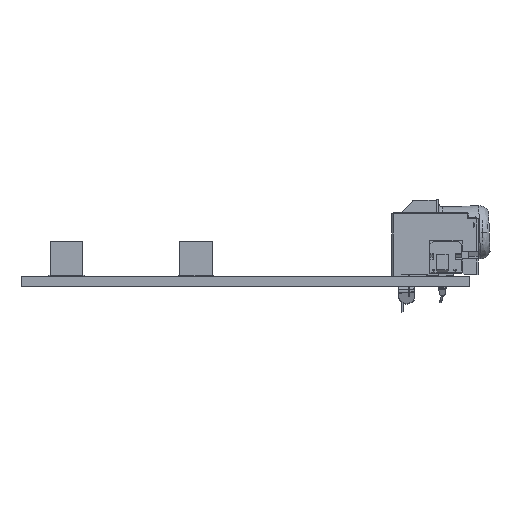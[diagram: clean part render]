
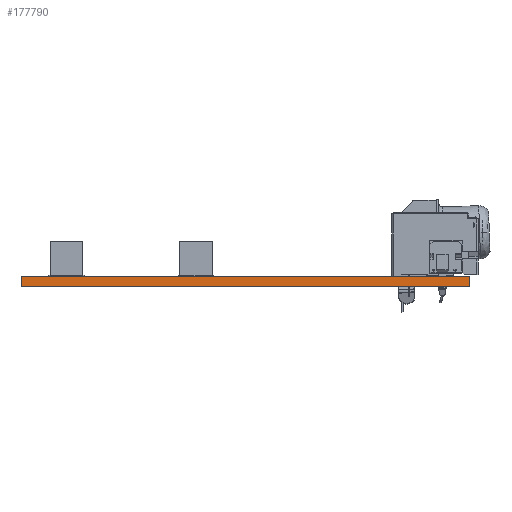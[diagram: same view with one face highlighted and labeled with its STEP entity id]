
A CAD part, left-side view. The second image highlights one B-rep face of the part: STEP entity #177790.
In plain terms, the highlighted planar face has unit normal (-1, 0, 0).
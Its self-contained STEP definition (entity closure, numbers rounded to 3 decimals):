
#170909 = PLANE('',#170910);
#170910 = AXIS2_PLACEMENT_3D('',#170911,#170912,#170913);
#170911 = CARTESIAN_POINT('',(21.051,33.135,1.64));
#170912 = DIRECTION('',(-0.,-0.,-1.));
#170913 = DIRECTION('',(-1.,0.,0.));
#170963 = PLANE('',#170964);
#170964 = AXIS2_PLACEMENT_3D('',#170965,#170966,#170967);
#170965 = CARTESIAN_POINT('',(21.051,33.135,0.));
#170966 = DIRECTION('',(-0.,-0.,-1.));
#170967 = DIRECTION('',(-1.,0.,0.));
#170996 = PLANE('',#170997);
#170997 = AXIS2_PLACEMENT_3D('',#170998,#170999,#171000);
#170998 = CARTESIAN_POINT('',(-30.,69.95,0.));
#170999 = DIRECTION('',(0.,1.,0.));
#171000 = DIRECTION('',(1.,0.,0.));
#172640 = VERTEX_POINT('',#172641);
#172641 = CARTESIAN_POINT('',(-30.,0.05,0.));
#172655 = PLANE('',#172656);
#172656 = AXIS2_PLACEMENT_3D('',#172657,#172658,#172659);
#172657 = CARTESIAN_POINT('',(-18.383,0.05,0.));
#172658 = DIRECTION('',(0.,-1.,0.));
#172659 = DIRECTION('',(-1.,0.,0.));
#172667 = EDGE_CURVE('',#172640,#172668,#172670,.T.);
#172668 = VERTEX_POINT('',#172669);
#172669 = CARTESIAN_POINT('',(-30.,69.95,0.));
#172670 = SURFACE_CURVE('',#172671,(#172675,#172682),.PCURVE_S1.);
#172671 = LINE('',#172672,#172673);
#172672 = CARTESIAN_POINT('',(-30.,0.05,0.));
#172673 = VECTOR('',#172674,1.);
#172674 = DIRECTION('',(0.,1.,0.));
#172675 = PCURVE('',#170963,#172676);
#172676 = DEFINITIONAL_REPRESENTATION('',(#172677),#172681);
#172677 = LINE('',#172678,#172679);
#172678 = CARTESIAN_POINT('',(51.051,-33.085));
#172679 = VECTOR('',#172680,1.);
#172680 = DIRECTION('',(0.,1.));
#172681 = ( GEOMETRIC_REPRESENTATION_CONTEXT(2) 
PARAMETRIC_REPRESENTATION_CONTEXT() REPRESENTATION_CONTEXT('2D SPACE',''
  ) );
#172682 = PCURVE('',#172683,#172688);
#172683 = PLANE('',#172684);
#172684 = AXIS2_PLACEMENT_3D('',#172685,#172686,#172687);
#172685 = CARTESIAN_POINT('',(-30.,0.05,0.));
#172686 = DIRECTION('',(-1.,0.,0.));
#172687 = DIRECTION('',(0.,1.,0.));
#172688 = DEFINITIONAL_REPRESENTATION('',(#172689),#172693);
#172689 = LINE('',#172690,#172691);
#172690 = CARTESIAN_POINT('',(0.,0.));
#172691 = VECTOR('',#172692,1.);
#172692 = DIRECTION('',(1.,0.));
#172693 = ( GEOMETRIC_REPRESENTATION_CONTEXT(2) 
PARAMETRIC_REPRESENTATION_CONTEXT() REPRESENTATION_CONTEXT('2D SPACE',''
  ) );
#175960 = VERTEX_POINT('',#175961);
#175961 = CARTESIAN_POINT('',(-30.,0.05,1.64));
#175982 = EDGE_CURVE('',#175960,#175983,#175985,.T.);
#175983 = VERTEX_POINT('',#175984);
#175984 = CARTESIAN_POINT('',(-30.,69.95,1.64));
#175985 = SURFACE_CURVE('',#175986,(#175990,#175997),.PCURVE_S1.);
#175986 = LINE('',#175987,#175988);
#175987 = CARTESIAN_POINT('',(-30.,0.05,1.64));
#175988 = VECTOR('',#175989,1.);
#175989 = DIRECTION('',(0.,1.,0.));
#175990 = PCURVE('',#170909,#175991);
#175991 = DEFINITIONAL_REPRESENTATION('',(#175992),#175996);
#175992 = LINE('',#175993,#175994);
#175993 = CARTESIAN_POINT('',(51.051,-33.085));
#175994 = VECTOR('',#175995,1.);
#175995 = DIRECTION('',(0.,1.));
#175996 = ( GEOMETRIC_REPRESENTATION_CONTEXT(2) 
PARAMETRIC_REPRESENTATION_CONTEXT() REPRESENTATION_CONTEXT('2D SPACE',''
  ) );
#175997 = PCURVE('',#172683,#175998);
#175998 = DEFINITIONAL_REPRESENTATION('',(#175999),#176003);
#175999 = LINE('',#176000,#176001);
#176000 = CARTESIAN_POINT('',(0.,-1.64));
#176001 = VECTOR('',#176002,1.);
#176002 = DIRECTION('',(1.,0.));
#176003 = ( GEOMETRIC_REPRESENTATION_CONTEXT(2) 
PARAMETRIC_REPRESENTATION_CONTEXT() REPRESENTATION_CONTEXT('2D SPACE',''
  ) );
#177740 = EDGE_CURVE('',#172668,#175983,#177741,.T.);
#177741 = SURFACE_CURVE('',#177742,(#177746,#177753),.PCURVE_S1.);
#177742 = LINE('',#177743,#177744);
#177743 = CARTESIAN_POINT('',(-30.,69.95,0.));
#177744 = VECTOR('',#177745,1.);
#177745 = DIRECTION('',(0.,0.,1.));
#177746 = PCURVE('',#170996,#177747);
#177747 = DEFINITIONAL_REPRESENTATION('',(#177748),#177752);
#177748 = LINE('',#177749,#177750);
#177749 = CARTESIAN_POINT('',(0.,0.));
#177750 = VECTOR('',#177751,1.);
#177751 = DIRECTION('',(0.,-1.));
#177752 = ( GEOMETRIC_REPRESENTATION_CONTEXT(2) 
PARAMETRIC_REPRESENTATION_CONTEXT() REPRESENTATION_CONTEXT('2D SPACE',''
  ) );
#177753 = PCURVE('',#172683,#177754);
#177754 = DEFINITIONAL_REPRESENTATION('',(#177755),#177759);
#177755 = LINE('',#177756,#177757);
#177756 = CARTESIAN_POINT('',(69.9,0.));
#177757 = VECTOR('',#177758,1.);
#177758 = DIRECTION('',(0.,-1.));
#177759 = ( GEOMETRIC_REPRESENTATION_CONTEXT(2) 
PARAMETRIC_REPRESENTATION_CONTEXT() REPRESENTATION_CONTEXT('2D SPACE',''
  ) );
#177790 = ADVANCED_FACE('',(#177791),#172683,.T.);
#177791 = FACE_BOUND('',#177792,.T.);
#177792 = EDGE_LOOP('',(#177793,#177814,#177815,#177816));
#177793 = ORIENTED_EDGE('',*,*,#177794,.T.);
#177794 = EDGE_CURVE('',#172640,#175960,#177795,.T.);
#177795 = SURFACE_CURVE('',#177796,(#177800,#177807),.PCURVE_S1.);
#177796 = LINE('',#177797,#177798);
#177797 = CARTESIAN_POINT('',(-30.,0.05,0.));
#177798 = VECTOR('',#177799,1.);
#177799 = DIRECTION('',(0.,0.,1.));
#177800 = PCURVE('',#172683,#177801);
#177801 = DEFINITIONAL_REPRESENTATION('',(#177802),#177806);
#177802 = LINE('',#177803,#177804);
#177803 = CARTESIAN_POINT('',(0.,0.));
#177804 = VECTOR('',#177805,1.);
#177805 = DIRECTION('',(0.,-1.));
#177806 = ( GEOMETRIC_REPRESENTATION_CONTEXT(2) 
PARAMETRIC_REPRESENTATION_CONTEXT() REPRESENTATION_CONTEXT('2D SPACE',''
  ) );
#177807 = PCURVE('',#172655,#177808);
#177808 = DEFINITIONAL_REPRESENTATION('',(#177809),#177813);
#177809 = LINE('',#177810,#177811);
#177810 = CARTESIAN_POINT('',(11.618,0.));
#177811 = VECTOR('',#177812,1.);
#177812 = DIRECTION('',(0.,-1.));
#177813 = ( GEOMETRIC_REPRESENTATION_CONTEXT(2) 
PARAMETRIC_REPRESENTATION_CONTEXT() REPRESENTATION_CONTEXT('2D SPACE',''
  ) );
#177814 = ORIENTED_EDGE('',*,*,#175982,.T.);
#177815 = ORIENTED_EDGE('',*,*,#177740,.F.);
#177816 = ORIENTED_EDGE('',*,*,#172667,.F.);
